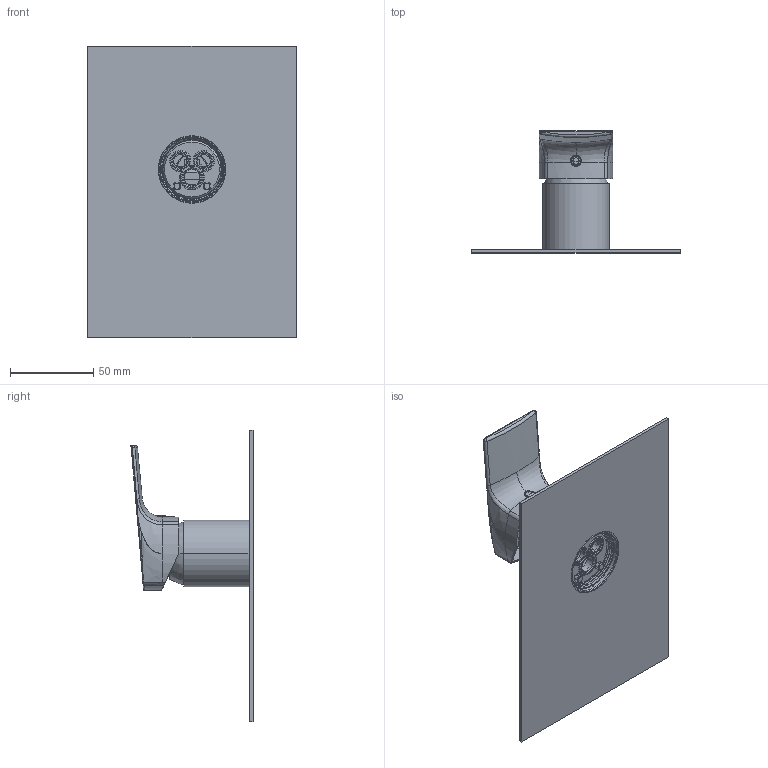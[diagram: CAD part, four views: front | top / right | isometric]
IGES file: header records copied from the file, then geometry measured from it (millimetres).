
Start section:  PTC IGES file: 3d_sw0001.igs
Global section: file name: 3d_sw0001.igs; native system: Creo Parametric by PTC Inc.; preprocessor: 2022014; author: volponeff; organization: Unknown; date: 20241008.092911; units: millimetre
Bounding box: 125 x 73.24 x 175 mm (x, y, z)
Surface area: 86410.7 mm2 (no closed solid volume)
Topology: 0 solids, 0 shells, 789 faces, 4680 edges, 4676 vertices
Faces by surface type: revolution 445, bspline 344
